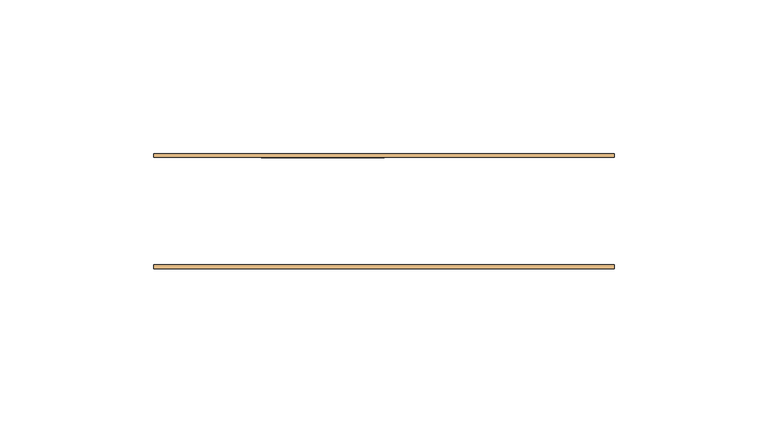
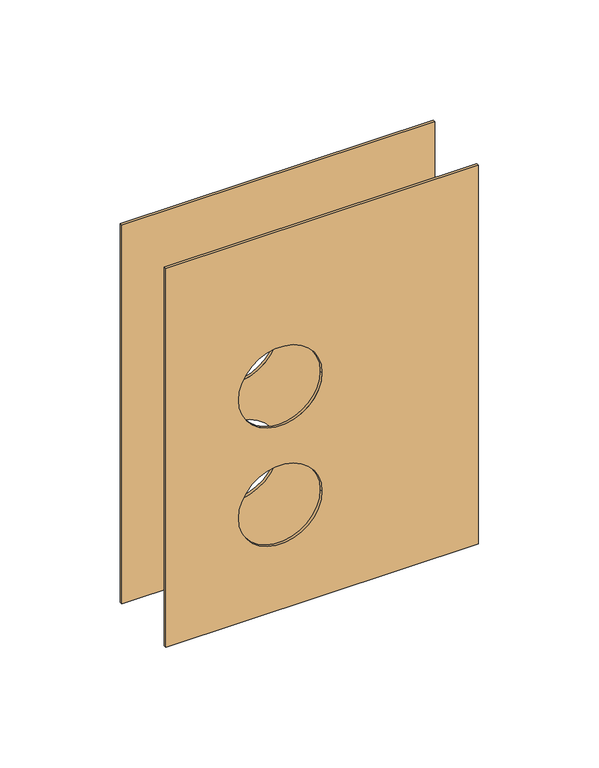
"""IFC4 building model written with IfcOpenShell, lengths in millimetres: door geometry, FDE_RP02_Reforço : FDE_RP02_Reforço."""

from ifc_helpers import new_model, si_unit, point, frame, frame_2d, origin, origin_2d, place, context, project, spatial, polyline, circle_curve, trimmed, segment, composite_curve, outline, extrude, source, transform, mapped, element, save


def door_29cd268e(model_context):
    return source(origin(), model_context, "Body", "SweptSolid", [
        extrude(outline(polyline([(79.0, 95.0), (79.0, -55.0), (-113.0, -55.0), (-113.0, 95.0), (79.0, 95.0)]), holes=[composite_curve([segment(trimmed(circle_curve(origin_2d(), 20.0), [point((0.0, -20.0))], [point((0.0, 20.0))], True, "CARTESIAN"), True, "CONTINUOUS"), segment(trimmed(circle_curve(origin_2d(), 20.0), [point((0.0, 20.0))], [point((0.0, -20.0))], True, "CARTESIAN"), True, "CONTINUOUS")], self_intersect=False), composite_curve([segment(trimmed(circle_curve(frame_2d((-60.005534, 0.0)), 20.0), [point((-60.005534, -20.0))], [point((-60.005534, 20.0))], True, "CARTESIAN"), True, "CONTINUOUS"), segment(trimmed(circle_curve(frame_2d((-60.005534, 0.0)), 20.0), [point((-60.005534, 20.0))], [point((-60.005534, -20.0))], True, "CARTESIAN"), True, "CONTINUOUS")], self_intersect=False)]), frame((0.0, 35.0, 0.0), z_axis=(0.0, 1.0, 0.0), x_axis=(0.0, 0.0, 1.0)), (0.0, 0.0, 1.0), 1.25),
        extrude(outline(polyline([(79.0, 95.0), (79.0, -55.0), (-113.0, -55.0), (-113.0, 95.0), (79.0, 95.0)]), holes=[composite_curve([segment(trimmed(circle_curve(origin_2d(), 20.0), [point((0.0, -20.0))], [point((0.0, 20.0))], True, "CARTESIAN"), True, "CONTINUOUS"), segment(trimmed(circle_curve(origin_2d(), 20.0), [point((0.0, 20.0))], [point((0.0, -20.0))], True, "CARTESIAN"), True, "CONTINUOUS")], self_intersect=False), composite_curve([segment(trimmed(circle_curve(frame_2d((-60.005534, 0.0)), 20.0), [point((-60.005534, -20.0))], [point((-60.005534, 20.0))], True, "CARTESIAN"), True, "CONTINUOUS"), segment(trimmed(circle_curve(frame_2d((-60.005534, 0.0)), 20.0), [point((-60.005534, 20.0))], [point((-60.005534, -20.0))], True, "CARTESIAN"), True, "CONTINUOUS")], self_intersect=False)]), frame((0.0, -1.25, 0.0), z_axis=(0.0, 1.0, 0.0), x_axis=(0.0, 0.0, 1.0)), (0.0, 0.0, 1.0), 1.25),
    ])


if __name__ == "__main__":
    model = new_model("IFC4")
    model_context = context("Model", 3, world=origin())
    ifc_project = project(units=[si_unit("LENGTHUNIT", "METRE", prefix="MILLI")], contexts=[model_context])
    site = spatial("IfcSite", under=ifc_project)
    building = spatial("IfcBuilding", under=site)
    placement = place(None, origin())
    door_shape = door_29cd268e(model_context)
    element("IfcDoor", 1, ObjectType="FDE_RP02_Reforço : FDE_RP02_Reforço", at=placement, inside=building, context=model_context, shape_type="MappedRepresentation", body=[
        mapped(door_shape, transform((0.0, 0.0, 0.0), x_axis=(1.0, 0.0, 0.0), y_axis=(0.0, 1.0, 0.0), z_axis=(0.0, 0.0, 1.0))),
    ])
    save(model, "model.ifc")
